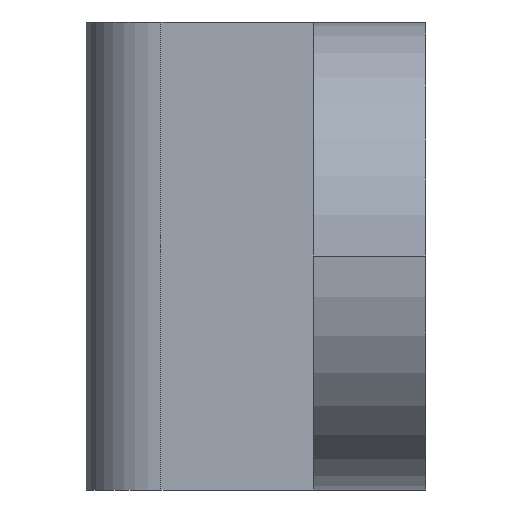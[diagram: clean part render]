
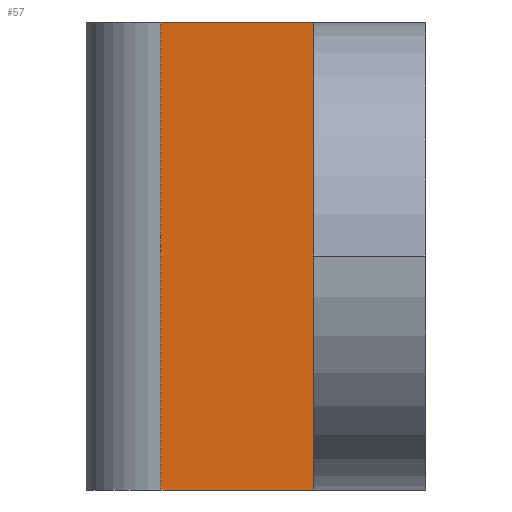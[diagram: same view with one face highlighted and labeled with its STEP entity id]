
A CAD part, left-side view. The second image highlights one B-rep face of the part: STEP entity #57.
In plain terms, the highlighted planar face has unit normal (-1, 0, 0).
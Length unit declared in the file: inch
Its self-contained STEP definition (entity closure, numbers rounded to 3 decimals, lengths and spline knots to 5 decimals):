
#20 = ORIENTED_EDGE ( 'NONE', *, *, #652, .F. ) ;
#21 = CARTESIAN_POINT ( 'NONE',  ( -0.46853, 0.363, 0.25 ) ) ;
#37 = ORIENTED_EDGE ( 'NONE', *, *, #850, .T. ) ;
#41 = VERTEX_POINT ( 'NONE', #1188 ) ;
#57 = ADVANCED_FACE ( 'NONE', ( #1106 ), #1023, .F. ) ;
#66 = CARTESIAN_POINT ( 'NONE',  ( -0.46853, 0.12, 0.25 ) ) ;
#81 = DIRECTION ( 'NONE',  ( 1., 0., 0. ) ) ;
#110 = VECTOR ( 'NONE', #1086, 39.37008 ) ;
#142 = ORIENTED_EDGE ( 'NONE', *, *, #490, .T. ) ;
#167 = ORIENTED_EDGE ( 'NONE', *, *, #667, .F. ) ;
#273 = CARTESIAN_POINT ( 'NONE',  ( -0.46853, 0.283, 0.25 ) ) ;
#283 = CARTESIAN_POINT ( 'NONE',  ( -0.46853, 0.363, 0.25 ) ) ;
#342 = DIRECTION ( 'NONE',  ( 0., -1., 0. ) ) ;
#450 = DIRECTION ( 'NONE',  ( 0., 0., -1. ) ) ;
#483 = LINE ( 'NONE', #21, #1073 ) ;
#490 = EDGE_CURVE ( 'NONE', #895, #41, #1187, .T. ) ;
#510 = DIRECTION ( 'NONE',  ( 0., 0., -1. ) ) ;
#647 = CARTESIAN_POINT ( 'NONE',  ( -0.46853, 0.12, -0.25 ) ) ;
#652 = EDGE_CURVE ( 'NONE', #895, #1042, #483, .T. ) ;
#666 = AXIS2_PLACEMENT_3D ( 'NONE', #283, #81, #450 ) ;
#667 = EDGE_CURVE ( 'NONE', #1042, #829, #980, .T. ) ;
#709 = VECTOR ( 'NONE', #510, 39.37008 ) ;
#753 = EDGE_LOOP ( 'NONE', ( #20, #142, #37, #167 ) ) ;
#765 = VECTOR ( 'NONE', #1001, 39.37008 ) ;
#829 = VERTEX_POINT ( 'NONE', #647 ) ;
#850 = EDGE_CURVE ( 'NONE', #41, #829, #1007, .T. ) ;
#895 = VERTEX_POINT ( 'NONE', #1093 ) ;
#980 = LINE ( 'NONE', #66, #709 ) ;
#1001 = DIRECTION ( 'NONE',  ( 0., 0., -1. ) ) ;
#1007 = LINE ( 'NONE', #1098, #110 ) ;
#1023 = PLANE ( 'NONE',  #666 ) ;
#1042 = VERTEX_POINT ( 'NONE', #1110 ) ;
#1073 = VECTOR ( 'NONE', #342, 39.37008 ) ;
#1086 = DIRECTION ( 'NONE',  ( 0., -1., 0. ) ) ;
#1093 = CARTESIAN_POINT ( 'NONE',  ( -0.46853, 0.283, 0.25 ) ) ;
#1098 = CARTESIAN_POINT ( 'NONE',  ( -0.46853, 0.363, -0.25 ) ) ;
#1106 = FACE_OUTER_BOUND ( 'NONE', #753, .T. ) ;
#1110 = CARTESIAN_POINT ( 'NONE',  ( -0.46853, 0.12, 0.25 ) ) ;
#1187 = LINE ( 'NONE', #273, #765 ) ;
#1188 = CARTESIAN_POINT ( 'NONE',  ( -0.46853, 0.283, -0.25 ) ) ;
